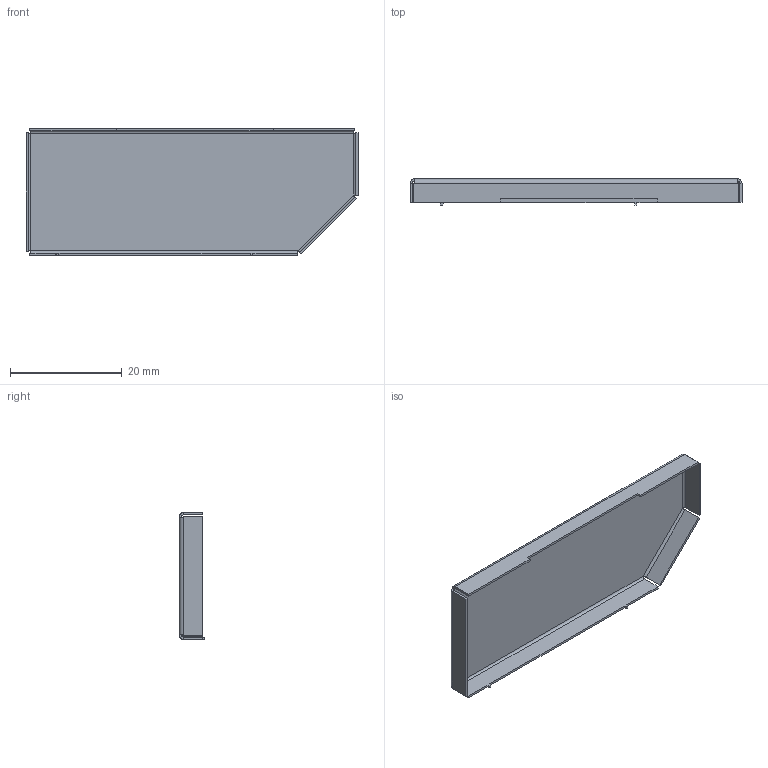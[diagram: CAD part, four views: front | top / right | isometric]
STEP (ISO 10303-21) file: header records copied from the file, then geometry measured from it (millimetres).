
FILE_DESCRIPTION(/* description */ (''),/* implementation_level */ '2;1');
FILE_NAME(/* name */ 'C:/projects/cariboulite_hardware/src/manufacturing/rev2/assembly/dxf/bottom.step',/* time_stamp */ '2022-01-06T15:58:59+02:00',/* author */ (''),/* organization */ (''),/* preprocessor_version */ 'ST-DEVELOPER v18.1',/* originating_system */ 'Autodesk Translation Framework v10.10.0.1391',/* authorisation */ '');
FILE_SCHEMA (('AUTOMOTIVE_DESIGN { 1 0 10303 214 3 1 1 }'));
Length unit declared in the file: millimetre
Products named in the file (1): bottom (2)
Bounding box: 59.39 x 4.65 x 22.65 mm (x, y, z)
Volume: 723.5 mm3; surface area: 3697.4 mm2
Topology: 1 solids, 1 shells, 69 faces, 161 edges, 94 vertices
Faces by surface type: plane 59, cylinder 10
Entity records: 1928 total; most frequent: CARTESIAN_POINT 325, ORIENTED_EDGE 322, DIRECTION 321, EDGE_CURVE 161, LINE 141, VECTOR 141, VERTEX_POINT 94, AXIS2_PLACEMENT_3D 90
